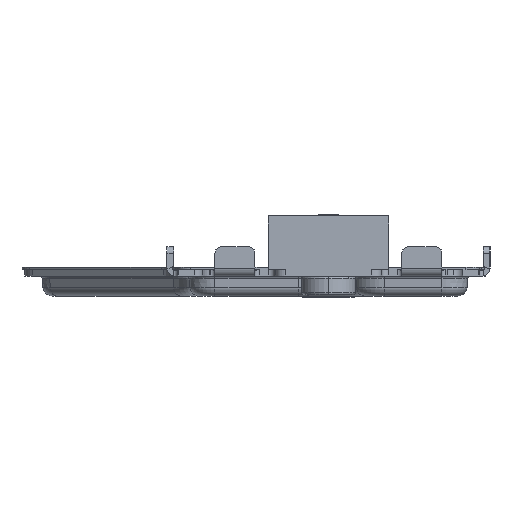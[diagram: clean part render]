
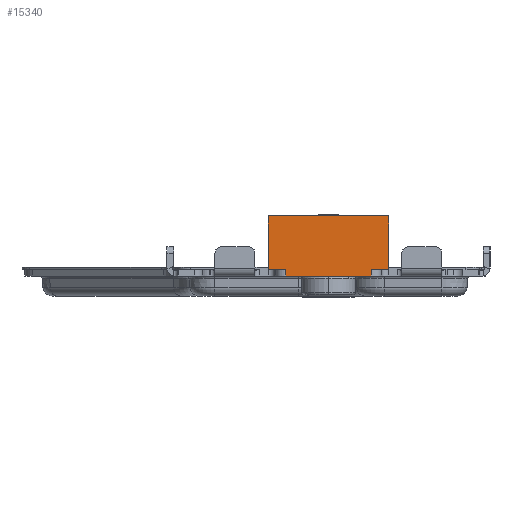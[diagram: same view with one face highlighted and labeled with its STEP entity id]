
A CAD part, left-side view. The second image highlights one B-rep face of the part: STEP entity #15340.
In plain terms, the highlighted planar face has unit normal (-1, 0, 0).
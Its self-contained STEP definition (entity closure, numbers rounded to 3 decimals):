
#1244=DIRECTION('',(0.,0.,1.));
#1245=VECTOR('',#1244,0.5);
#1246=CARTESIAN_POINT('',(-42.3,-3.2,-0.5));
#1247=LINE('',#1246,#1245);
#1248=DIRECTION('',(0.,1.,0.));
#1249=VECTOR('',#1248,1.3);
#1250=CARTESIAN_POINT('',(-42.3,3.2,0.));
#1251=LINE('',#1250,#1249);
#1252=DIRECTION('',(0.,0.,1.));
#1253=VECTOR('',#1252,4.);
#1254=CARTESIAN_POINT('',(-42.3,4.5,0.));
#1255=LINE('',#1254,#1253);
#1256=DIRECTION('',(0.,0.,-1.));
#1257=VECTOR('',#1256,4.);
#1258=CARTESIAN_POINT('',(-42.3,-4.5,4.));
#1259=LINE('',#1258,#1257);
#1260=DIRECTION('',(0.,1.,0.));
#1261=VECTOR('',#1260,1.3);
#1262=CARTESIAN_POINT('',(-42.3,-4.5,0.));
#1263=LINE('',#1262,#1261);
#1264=DIRECTION('',(0.,1.,0.));
#1265=VECTOR('',#1264,6.4);
#1266=CARTESIAN_POINT('',(-42.3,-3.2,-0.5));
#1267=LINE('',#1266,#1265);
#1268=DIRECTION('',(0.,0.,-1.));
#1269=VECTOR('',#1268,0.5);
#1270=CARTESIAN_POINT('',(-42.3,3.2,0.));
#1271=LINE('',#1270,#1269);
#3004=DIRECTION('',(0.,1.,0.));
#3005=VECTOR('',#3004,9.);
#3006=CARTESIAN_POINT('',(-42.3,-4.5,4.));
#3007=LINE('',#3006,#3005);
#11422=CARTESIAN_POINT('',(-42.3,3.2,-0.5));
#11423=VERTEX_POINT('',#11422);
#11424=CARTESIAN_POINT('',(-42.3,-3.2,-0.5));
#11425=VERTEX_POINT('',#11424);
#11553=CARTESIAN_POINT('',(-42.3,-3.2,0.));
#11554=VERTEX_POINT('',#11553);
#11555=CARTESIAN_POINT('',(-42.3,-4.5,0.));
#11556=VERTEX_POINT('',#11555);
#11559=CARTESIAN_POINT('',(-42.3,3.2,0.));
#11560=VERTEX_POINT('',#11559);
#11561=CARTESIAN_POINT('',(-42.3,4.5,0.));
#11562=VERTEX_POINT('',#11561);
#11563=CARTESIAN_POINT('',(-42.3,4.5,4.));
#11564=VERTEX_POINT('',#11563);
#11565=CARTESIAN_POINT('',(-42.3,-4.5,4.));
#11566=VERTEX_POINT('',#11565);
#15320=CARTESIAN_POINT('',(-42.3,0.,-0.25));
#15321=DIRECTION('',(1.,0.,0.));
#15322=DIRECTION('',(0.,-1.,0.));
#15323=AXIS2_PLACEMENT_3D('',#15320,#15321,#15322);
#15324=PLANE('',#15323);
#15326=ORIENTED_EDGE('',*,*,#15325,.F.);
#15328=ORIENTED_EDGE('',*,*,#15327,.T.);
#15330=ORIENTED_EDGE('',*,*,#15329,.T.);
#15332=ORIENTED_EDGE('',*,*,#15331,.F.);
#15334=ORIENTED_EDGE('',*,*,#15333,.T.);
#15335=ORIENTED_EDGE('',*,*,#15298,.T.);
#15336=ORIENTED_EDGE('',*,*,#15315,.F.);
#15337=ORIENTED_EDGE('',*,*,#14837,.T.);
#15338=EDGE_LOOP('',(#15326,#15328,#15330,#15332,#15334,#15335,#15336,#15337));
#15339=FACE_OUTER_BOUND('',#15338,.F.);
#15340=ADVANCED_FACE('',(#15339),#15324,.F.);
#14837=EDGE_CURVE('',#11425,#11423,#1267,.T.);
#15298=EDGE_CURVE('',#11556,#11554,#1263,.T.);
#15315=EDGE_CURVE('',#11425,#11554,#1247,.T.);
#15325=EDGE_CURVE('',#11560,#11423,#1271,.T.);
#15327=EDGE_CURVE('',#11560,#11562,#1251,.T.);
#15329=EDGE_CURVE('',#11562,#11564,#1255,.T.);
#15331=EDGE_CURVE('',#11566,#11564,#3007,.T.);
#15333=EDGE_CURVE('',#11566,#11556,#1259,.T.);
